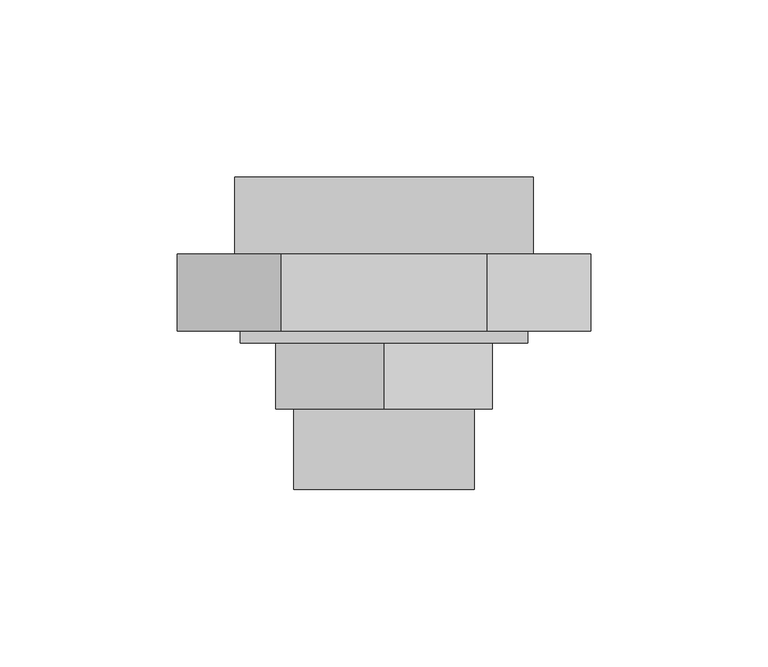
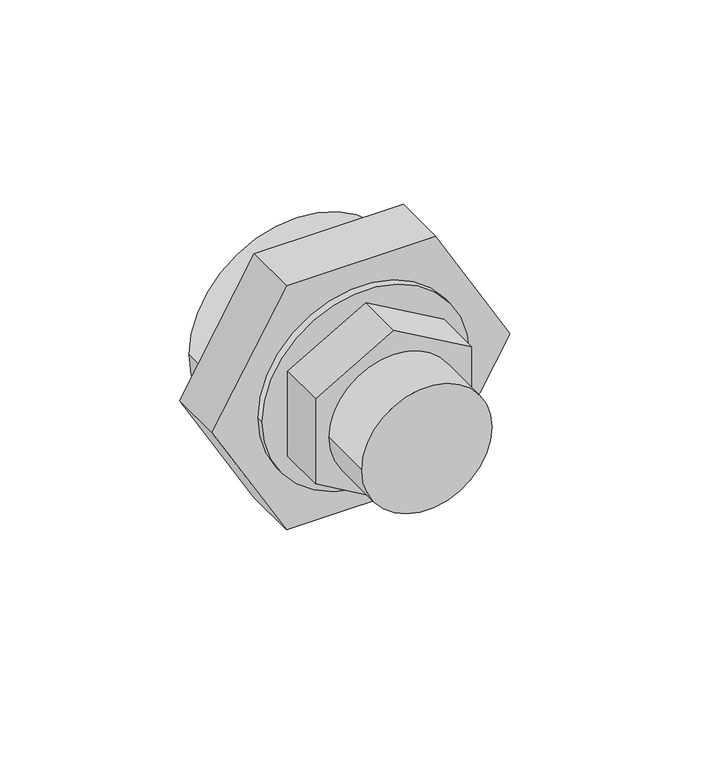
"""IFC4 building model written with IfcOpenShell, lengths in millimetres: pipe fitting geometry, EGB_VASEN_ PPR_Enlace desmontable rosca macho WXR103 : Enlace desmontable rosca macho WXR103."""

from ifc_helpers import new_model, si_unit, point, frame, origin, origin_2d, place, context, project, spatial, polyline, circle_curve, trimmed, segment, composite_curve, outline, extrude, source, transform, mapped, element, save


def pipe_fitting_5199799f(model_context):
    return source(origin(), model_context, "Body", "SweptSolid", [
        extrude(outline(polyline([(-17.5976362, -30.48), (-35.1952724, 0.0), (-17.5976362, 30.48), (17.5976362, 30.48), (35.1952724, 0.0), (17.5976362, -30.48), (-17.5976362, -30.48)])), frame((0.0, -43.0879167, 0.0), z_axis=(0.0, 1.0, 0.0), x_axis=(0.0, 0.0, 1.0)), (0.0, 0.0, 1.0), 18.6666667),
        extrude(outline(polyline([(0.0, 58.1969071), (50.4, 29.0984536), (50.4, -29.0984536), (0.0, -58.1969071), (-50.4, -29.0984536), (-50.4, 29.0984536), (0.0, 58.1969071)])), frame((0.0, -21.05375, 0.0), z_axis=(0.0, 1.0, 0.0), x_axis=(0.0, 0.0, 1.0)), (0.0, 0.0, 1.0), 21.6666667),
        extrude(outline(composite_curve([segment(trimmed(circle_curve(origin_2d(), 25.4), [point((0.0, -25.4))], [point((0.0, 25.4))], False, "CARTESIAN"), True, "CONTINUOUS"), segment(trimmed(circle_curve(origin_2d(), 25.4), [point((0.0, 25.4))], [point((0.0, -25.4))], False, "CARTESIAN"), True, "CONTINUOUS")], self_intersect=False)), frame((0.0, -65.7204167, 0.0), z_axis=(0.0, 1.0, 0.0), x_axis=(0.0, 0.0, 1.0)), (0.0, 0.0, 1.0), 23.0),
        extrude(outline(composite_curve([segment(trimmed(circle_curve(origin_2d(), 40.44), [point((0.0, -40.44))], [point((0.0, 40.44))], False, "CARTESIAN"), True, "CONTINUOUS"), segment(trimmed(circle_curve(origin_2d(), 40.44), [point((0.0, 40.44))], [point((0.0, -40.44))], False, "CARTESIAN"), True, "CONTINUOUS")], self_intersect=False)), frame((0.0, -24.42125, 0.0), z_axis=(0.0, 1.0, 0.0), x_axis=(0.0, 0.0, 1.0)), (0.0, 0.0, 1.0), 3.3675),
        extrude(outline(composite_curve([segment(trimmed(circle_curve(origin_2d(), 42.0), [point((0.0, -42.0))], [point((0.0, 42.0))], False, "CARTESIAN"), True, "CONTINUOUS"), segment(trimmed(circle_curve(origin_2d(), 42.0), [point((0.0, 42.0))], [point((0.0, -42.0))], False, "CARTESIAN"), True, "CONTINUOUS")], self_intersect=False), holes=[composite_curve([segment(trimmed(circle_curve(origin_2d(), 31.5), [point((0.0, -31.5))], [point((0.0, 31.5))], True, "CARTESIAN"), True, "CONTINUOUS"), segment(trimmed(circle_curve(origin_2d(), 31.5), [point((0.0, 31.5))], [point((0.0, -31.5))], True, "CARTESIAN"), True, "CONTINUOUS")], self_intersect=False)]), frame((0.0, 0.6129167, 0.0), z_axis=(0.0, 1.0, 0.0), x_axis=(0.0, 0.0, 1.0)), (0.0, 0.0, 1.0), 21.6666667),
    ])


if __name__ == "__main__":
    model = new_model("IFC4")
    model_context = context("Model", 3, world=origin())
    ifc_project = project(units=[si_unit("LENGTHUNIT", "METRE", prefix="MILLI")], contexts=[model_context])
    site = spatial("IfcSite", under=ifc_project)
    building = spatial("IfcBuilding", under=site)
    placement = place(None, origin())
    pipe_fitting_shape = pipe_fitting_5199799f(model_context)
    element("IfcPipeFitting", 1, ObjectType="EGB_VASEN_ PPR_Enlace desmontable rosca macho WXR103 : Enlace desmontable rosca macho WXR103", at=placement, inside=building, context=model_context, shape_type="MappedRepresentation", body=[
        mapped(pipe_fitting_shape, transform((0.0, 0.0, 0.0), x_axis=(1.0, 0.0, 0.0), y_axis=(0.0, 1.0, 0.0), z_axis=(0.0, 0.0, 1.0))),
    ])
    save(model, "model.ifc")
